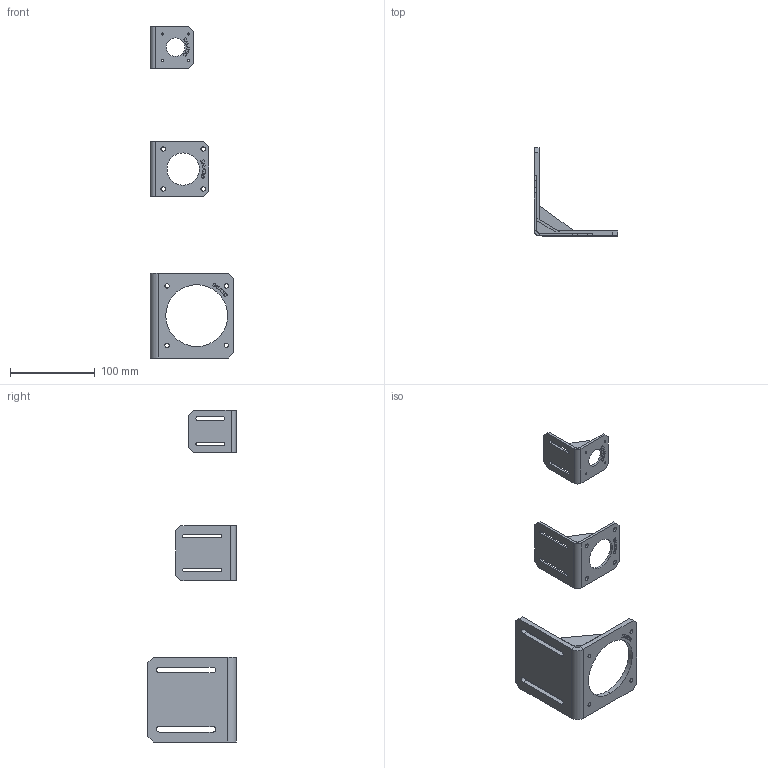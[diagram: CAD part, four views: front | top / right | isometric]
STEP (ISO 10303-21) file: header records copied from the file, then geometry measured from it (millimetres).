
FILE_DESCRIPTION (( 'STEP AP203' ), '1' );
FILE_NAME ('SUP - 17-23-34.STEP', '2025-08-28T18:53:18', ( '' ), ( '' ), 'SwSTEP 2.0', 'SolidWorks 2019', '' );
FILE_SCHEMA (( 'CONFIG_CONTROL_DESIGN' ));
Length unit declared in the file: millimetre
Products named in the file (4): SUP NEMA 34; SUP - 17-23-34; SUP NEMA 23; SUP NEMA 17
Assembly tree (3 placements, depth 2):
  SUP - 17-23-34
    SUP NEMA 17
    SUP NEMA 23
    SUP NEMA 34
Bounding box: 98.9 x 103.9 x 391.82 mm (x, y, z)
Volume: 122383.9 mm3; surface area: 67393.9 mm2
Topology: 9 solids, 9 shells, 395 faces, 1026 edges, 676 vertices
Faces by surface type: plane 318, cylinder 50, bspline 27
Entity records: 14012 total; most frequent: CARTESIAN_POINT 3930, ORIENTED_EDGE 2052, DIRECTION 1820, EDGE_CURVE 1026, LINE 872, VECTOR 872, VERTEX_POINT 676, AXIS2_PLACEMENT_3D 474
